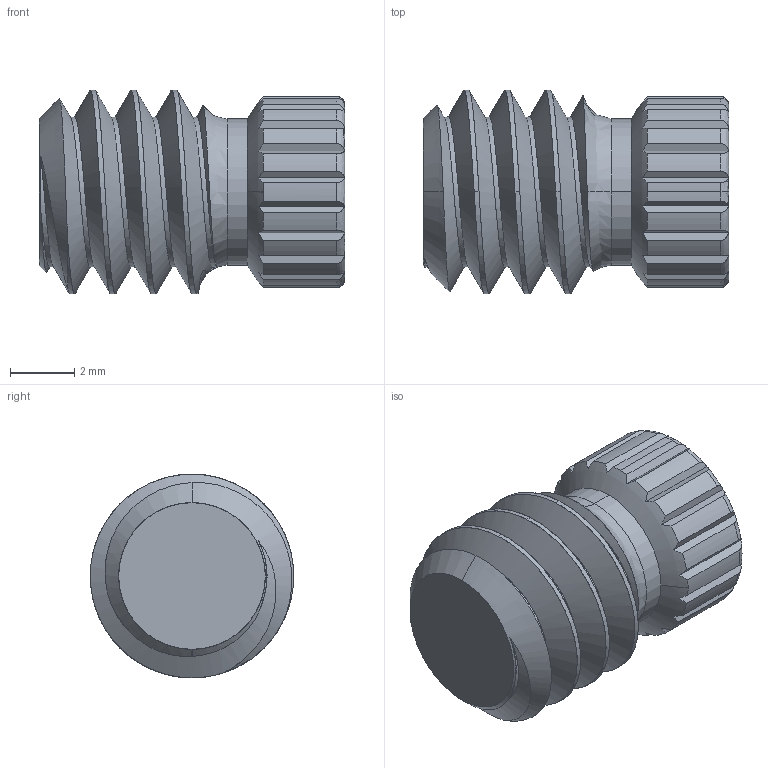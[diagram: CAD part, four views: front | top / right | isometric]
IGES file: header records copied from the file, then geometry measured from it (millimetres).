
Start section: SolidWorks IGES file using analytic representation for surfaces
Global section: file name: Z:\g2 CAD\EREZ PDM TMP\OT-IGES\BC0500-OTX-Imperial Screw Puck Centering.IGS; native system: SolidWorks 2015; preprocessor: SolidWorks 2015; author: Erez; date: 160101.203442; units: inch
Bounding box: 9.53 x 6.35 x 6.35 mm (x, y, z)
Surface area: 287.7 mm2 (no closed solid volume)
Topology: 0 solids, 0 shells, 89 faces, 1055 edges, 1054 vertices
Faces by surface type: bspline 52, revolution 37
